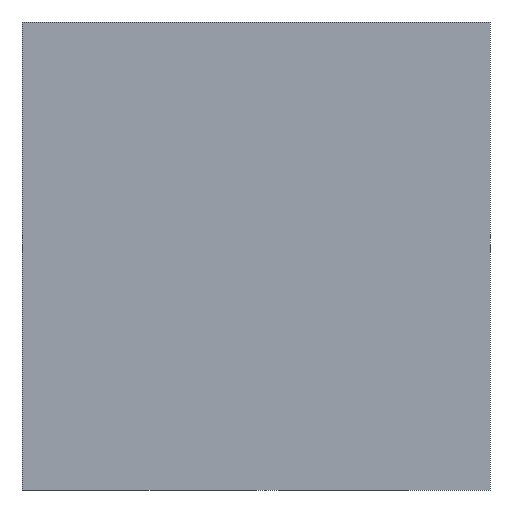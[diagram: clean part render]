
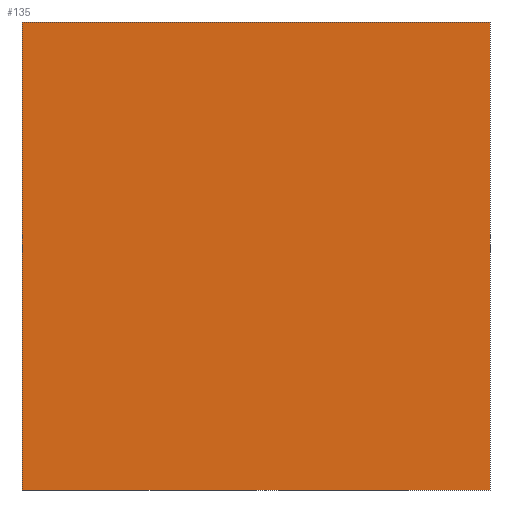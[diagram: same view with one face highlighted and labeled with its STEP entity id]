
A CAD part, left-side view. The second image highlights one B-rep face of the part: STEP entity #135.
In plain terms, the highlighted planar face has unit normal (-1, 0, 0).
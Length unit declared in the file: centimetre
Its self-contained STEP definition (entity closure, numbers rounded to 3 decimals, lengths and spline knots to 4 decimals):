
#20 = EDGE_CURVE ( 'NONE', #239, #500, #45, .T. ) ;
#45 = LINE ( 'NONE', #91, #229 ) ;
#48 = CARTESIAN_POINT ( 'NONE',  ( 0., 1000., 0. ) ) ;
#86 = LINE ( 'NONE', #182, #251 ) ;
#87 = DIRECTION ( 'NONE',  ( 0., -1., 0. ) ) ;
#88 = AXIS2_PLACEMENT_3D ( 'NONE', #242, #289, #111 ) ;
#91 = CARTESIAN_POINT ( 'NONE',  ( 0., 1000., 1000. ) ) ;
#111 = DIRECTION ( 'NONE',  ( 0., 0., -1. ) ) ;
#114 = PLANE ( 'NONE',  #88 ) ;
#122 = EDGE_CURVE ( 'NONE', #239, #371, #134, .T. ) ;
#134 = LINE ( 'NONE', #310, #390 ) ;
#135 = ADVANCED_FACE ( 'NONE', ( #222 ), #114, .F. ) ;
#162 = CARTESIAN_POINT ( 'NONE',  ( 0., 0., 1000. ) ) ;
#182 = CARTESIAN_POINT ( 'NONE',  ( 0., 0., 1000. ) ) ;
#222 = FACE_OUTER_BOUND ( 'NONE', #228, .T. ) ;
#228 = EDGE_LOOP ( 'NONE', ( #502, #416, #563, #478 ) ) ;
#229 = VECTOR ( 'NONE', #396, 100. ) ;
#239 = VERTEX_POINT ( 'NONE', #287 ) ;
#242 = CARTESIAN_POINT ( 'NONE',  ( 0., 1000., 1000. ) ) ;
#251 = VECTOR ( 'NONE', #486, 100. ) ;
#282 = VECTOR ( 'NONE', #385, 100. ) ;
#287 = CARTESIAN_POINT ( 'NONE',  ( 0., 1000., 1000. ) ) ;
#289 = DIRECTION ( 'NONE',  ( 1., 0., 0. ) ) ;
#298 = LINE ( 'NONE', #428, #282 ) ;
#310 = CARTESIAN_POINT ( 'NONE',  ( 0., 1000., 1000. ) ) ;
#353 = EDGE_CURVE ( 'NONE', #500, #460, #298, .T. ) ;
#371 = VERTEX_POINT ( 'NONE', #162 ) ;
#385 = DIRECTION ( 'NONE',  ( 0., -1., 0. ) ) ;
#390 = VECTOR ( 'NONE', #87, 100. ) ;
#396 = DIRECTION ( 'NONE',  ( 0., 0., -1. ) ) ;
#399 = CARTESIAN_POINT ( 'NONE',  ( 0., 0., 0. ) ) ;
#416 = ORIENTED_EDGE ( 'NONE', *, *, #452, .F. ) ;
#428 = CARTESIAN_POINT ( 'NONE',  ( 0., 1000., 0. ) ) ;
#452 = EDGE_CURVE ( 'NONE', #371, #460, #86, .T. ) ;
#460 = VERTEX_POINT ( 'NONE', #399 ) ;
#478 = ORIENTED_EDGE ( 'NONE', *, *, #20, .T. ) ;
#486 = DIRECTION ( 'NONE',  ( 0., 0., -1. ) ) ;
#500 = VERTEX_POINT ( 'NONE', #48 ) ;
#502 = ORIENTED_EDGE ( 'NONE', *, *, #353, .T. ) ;
#563 = ORIENTED_EDGE ( 'NONE', *, *, #122, .F. ) ;
